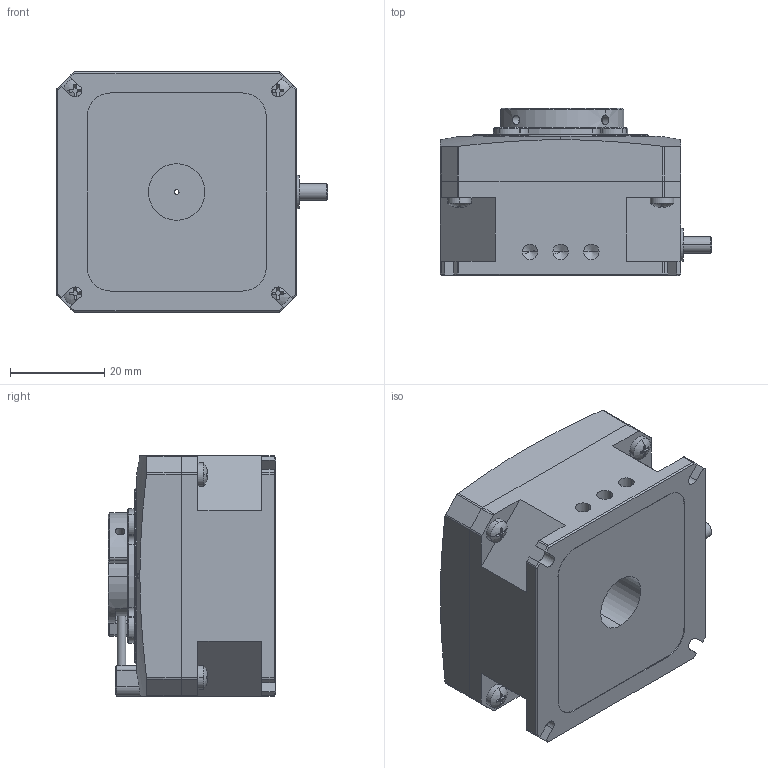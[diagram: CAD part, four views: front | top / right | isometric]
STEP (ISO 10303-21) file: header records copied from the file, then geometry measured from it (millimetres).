
FILE_DESCRIPTION (( 'STEP AP214' ), '1' );
FILE_NAME ('N61.R5E-B1旋转压电马达(发客户）.STEP', '2024-12-06T07:18:49', ( 'Sky123.Org' ), ( 'Sky123.Org' ), 'SwSTEP 2.0', 'SolidWorks 2016', '' );
FILE_SCHEMA (( 'AUTOMOTIVE_DESIGN' ));
Length unit declared in the file: millimetre
Products named in the file (1): N61.R5E-B1旋转压电马达(发客户）
Bounding box: 57.5 x 35.5 x 51 mm (x, y, z)
Volume: 65974.2 mm3; surface area: 27012.7 mm2
Topology: 20 solids, 20 shells, 1796 faces, 4798 edges, 3121 vertices
Faces by surface type: plane 1207, cylinder 301, bspline 147, cone 133, sphere 8
Entity records: 96890 total; most frequent: CARTESIAN_POINT 33353, ORIENTED_EDGE 9528, DIRECTION 8307, EDGE_CURVE 4764, VERTEX_POINT 3121, VECTOR 2905, LINE 2905, AXIS2_PLACEMENT_3D 2701
